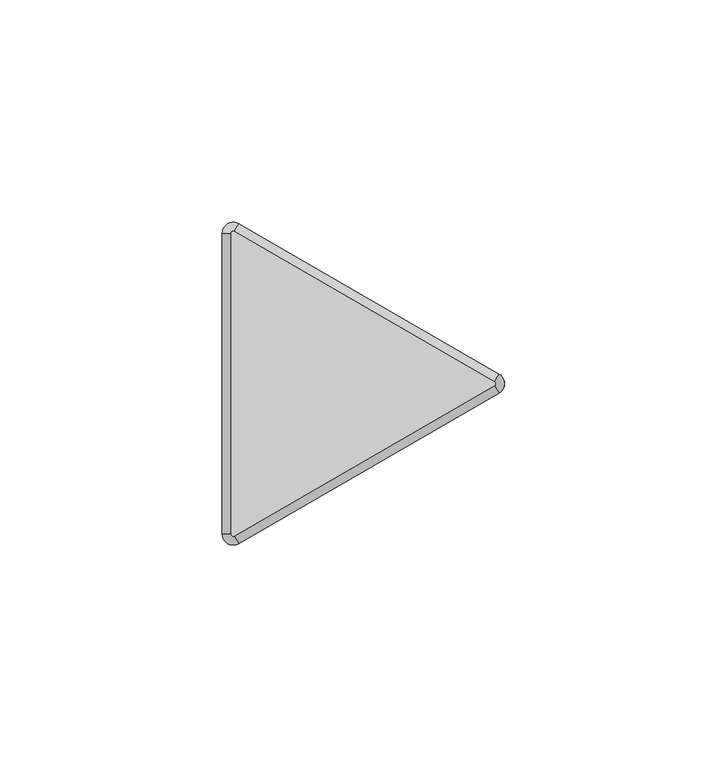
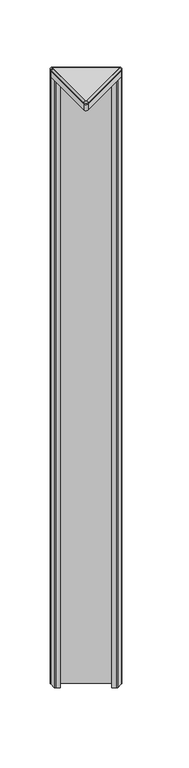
"""IFC4 building model written with IfcOpenShell, lengths in millimetres: furniture geometry, Steelcase - Answer Solution - Panel - 120deg Change-of-Height Trim - Thin : V Corner - 30H for 90H App."""

from ifc_helpers import new_model, si_unit, point, frame, frame_2d, origin, place, context, project, spatial, polyline, circle_curve, ellipse_curve, trimmed, segment, composite_curve, outline, extrude, source, transform, mapped, element, save
from ifc_brep_helpers import plane_surface, cylinder_surface, revolved_surface, advanced_brep


def furniture_1ed7986a(model_context):
    return source(origin(), model_context, "Body", "SolidModel", [
        advanced_brep(
        [(-10.518645, -37.3335529, 2138.0628978), (-14.2052101, -35.2051135, 2138.0628978), (-14.2052101, -35.2051135, 2137.1164663), (-10.518645, -37.3335529, 2137.1164663), (-11.46175, -35.7000471, 2139.95), (-12.319, -35.2051135, 2139.95), (-11.46175, -35.7000471, 2137.1164663), (-12.319, -35.2051135, 2137.1164663), (48.0429908, -3.5229767, 2137.1164663), (48.0429908, -3.5229767, 2138.0628978), (47.0998858, -1.8894709, 2139.95), (47.0998858, -1.8894709, 2137.1164663), (48.0429908, 0.733902, 2138.0628978), (48.0429908, 0.733902, 2137.1164663), (47.0998858, -0.8996038, 2139.95), (47.0998858, -0.8996038, 2137.1164663), (-10.518645, 34.5444782, 2137.1164663), (-14.2052101, 32.4160388, 2137.1164663), (-11.46175, 32.9109723, 2137.1164663), (-12.319, 32.4160388, 2137.1164663), (-10.518645, 34.5444782, 2138.0628978), (-11.46175, 32.9109723, 2139.95), (-14.2052101, 32.4160388, 2138.0628978), (-12.319, 32.4160388, 2139.95)],
        [
            (0, 1, circle_curve(frame((-11.7475, -35.2051135, 2138.0628978), z_axis=(0.0, 0.0, -1.0), x_axis=(-1.0, 0.0, 0.0)), 2.4577101)),
            (1, 2),
            (2, 3, circle_curve(frame((-11.7475, -35.2051135, 2137.1164663), z_axis=(0.0, 0.0, 1.0), x_axis=(-1.0, 0.0, 0.0)), 2.4577101)),
            (3, 0),
            (4, 5, circle_curve(frame((-11.7475, -35.2051135, 2139.95), z_axis=(0.0, 0.0, -1.0), x_axis=(-1.0, 0.0, 0.0)), 0.5715)),
            (5, 1, circle_curve(frame((-12.3181076, -35.2051135, 2138.0628978), z_axis=(0.0, -1.0, 0.0), x_axis=(1.0, 0.0, 0.0)), 1.8871024)),
            (0, 4, circle_curve(frame((-11.4621962, -35.6992743, 2138.0628978), z_axis=(-0.8660254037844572, -0.49999999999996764, 0.0), x_axis=(-0.49999999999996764, 0.8660254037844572, 0.0)), 1.8871024)),
            (6, 7, circle_curve(frame((-11.7475, -35.2051135, 2137.1164663), z_axis=(0.0, 0.0, -1.0), x_axis=(-1.0, 0.0, 0.0)), 0.5715)),
            (7, 5),
            (4, 6),
            (3, 8),
            (8, 9),
            (9, 0),
            (9, 10, circle_curve(frame((47.0994396, -1.8886981, 2138.0628978), z_axis=(-0.8660254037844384, -0.5000000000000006, 0.0), x_axis=(-0.5000000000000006, 0.8660254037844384, 0.0)), 1.8871024)),
            (10, 4),
            (10, 11),
            (11, 6),
            (12, 9, circle_curve(frame((46.8141358, -1.3945374, 2138.0628978), z_axis=(0.0, 0.0, -1.0), x_axis=(0.4999999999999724, -0.8660254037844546, 0.0)), 2.4577101)),
            (8, 13, circle_curve(frame((46.8141358, -1.3945374, 2137.1164663), z_axis=(0.0, 0.0, 1.0), x_axis=(0.4999999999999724, -0.8660254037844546, 0.0)), 2.4577101)),
            (13, 12),
            (14, 10, circle_curve(frame((46.8141358, -1.3945374, 2139.95), z_axis=(0.0, 0.0, -1.0), x_axis=(0.4999999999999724, -0.8660254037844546, 0.0)), 0.5715)),
            (12, 14, circle_curve(frame((47.0994396, -0.9003766, 2138.0628978), z_axis=(0.8660254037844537, -0.49999999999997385, 0.0), x_axis=(-0.49999999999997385, -0.8660254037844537, 0.0)), 1.8871024)),
            (15, 11, circle_curve(frame((46.8141358, -1.3945374, 2137.1164663), z_axis=(0.0, 0.0, -1.0), x_axis=(0.4999999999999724, -0.8660254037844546, 0.0)), 0.5715)),
            (14, 15),
            (16, 13),
            (2, 17),
            (17, 16, circle_curve(frame((-11.7475, 32.4160388, 2137.1164663), z_axis=(0.0, 0.0, -1.0), x_axis=(0.500000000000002, 0.8660254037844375, 0.0)), 2.4577101)),
            (15, 18),
            (18, 19, circle_curve(frame((-11.7475, 32.4160388, 2137.1164663), z_axis=(0.0, 0.0, 1.0), x_axis=(0.500000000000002, 0.8660254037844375, 0.0)), 0.5715)),
            (19, 7),
            (16, 20),
            (20, 12),
            (20, 21, circle_curve(frame((-11.4621962, 32.9101995, 2138.0628978), z_axis=(0.8660254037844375, -0.5000000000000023, 0.0), x_axis=(-0.5000000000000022, -0.8660254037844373, 0.0)), 1.8871024)),
            (21, 14),
            (21, 18),
            (22, 20, circle_curve(frame((-11.7475, 32.4160388, 2138.0628978), z_axis=(0.0, 0.0, -1.0), x_axis=(0.500000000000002, 0.8660254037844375, 0.0)), 2.4577101)),
            (17, 22),
            (23, 21, circle_curve(frame((-11.7475, 32.4160388, 2139.95), z_axis=(0.0, 0.0, -1.0), x_axis=(0.500000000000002, 0.8660254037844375, 0.0)), 0.5715)),
            (22, 23, circle_curve(frame((-12.3181076, 32.4160388, 2138.0628978), z_axis=(0.0, 1.0, 0.0), x_axis=(1.0, 0.0, 0.0)), 1.8871024)),
            (23, 19),
            (1, 22),
            (5, 23),
        ],
        [
            cylinder_surface(frame((-11.7475, -35.2051135, 0.0), z_axis=(0.0, 0.0, 1.0), x_axis=(-1.0, 0.0, 0.0)), 2.4577101),
            revolved_surface(trimmed(ellipse_curve(frame((-12.3181076, -35.2051135, 2138.0628978), z_axis=(0.0, 1.0, 0.0), x_axis=(1.0, 0.0, 0.0)), 1.8871024, 1.8871024), [point((-14.2052101, -35.2051135, 2138.0628978))], [point((-12.319, -35.2051135, 2139.95))], True, "CARTESIAN"), (-11.7475, -35.2051135, 0.0), (0.0, 0.0, 1.0)),
            revolved_surface(polyline([(-12.319, -35.2051135, 2139.95), (-12.319, -35.2051135, 2137.1164663)]), (-11.7475, -35.2051135, 0.0), (0.0, 0.0, 1.0)),
            plane_surface(frame((-10.518645, -37.3335529, 2137.1164663), z_axis=(0.49999999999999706, -0.8660254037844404, 0.0), x_axis=(0.8660254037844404, 0.49999999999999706, 0.0))),
            cylinder_surface(frame((-11.4621962, -35.6992743, 2138.0628978), z_axis=(-0.8660254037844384, -0.5000000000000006, 0.0), x_axis=(-0.5000000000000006, 0.8660254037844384, 0.0)), 1.8871024),
            plane_surface(frame((-11.46175, -35.7000471, 2139.95), z_axis=(-0.500000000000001, 0.8660254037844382, 0.0), x_axis=(0.8660254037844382, 0.500000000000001, 0.0))),
            cylinder_surface(frame((46.8141358, -1.3945374, 0.0), z_axis=(0.0, 0.0, 1.0), x_axis=(0.4999999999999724, -0.8660254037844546, 0.0)), 2.4577101),
            revolved_surface(trimmed(ellipse_curve(frame((47.0994396, -1.8886981, 2138.0628978), z_axis=(-0.8660254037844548, -0.499999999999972, 0.0), x_axis=(-0.499999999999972, 0.8660254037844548, 0.0)), 1.8871024, 1.8871024), [point((48.0429908, -3.5229767, 2138.0628978))], [point((47.0998858, -1.8894709, 2139.95))], True, "CARTESIAN"), (46.8141358, -1.3945374, 0.0), (0.0, 0.0, 1.0)),
            revolved_surface(polyline([(47.09988579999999, -1.8894709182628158, 2139.95), (47.09988579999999, -1.8894709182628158, 2137.1164663)]), (46.8141358, -1.3945374, 0.0), (0.0, 0.0, 1.0)),
            plane_surface(frame((47.0998858, -0.8996038, 2137.1164663), z_axis=(0.0, 0.0, -1.0), x_axis=(-0.8660254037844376, 0.5000000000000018, 0.0))),
            plane_surface(frame((48.0429908, 0.733902, 2137.1164663), z_axis=(0.49999999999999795, 0.8660254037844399, 0.0), x_axis=(-0.8660254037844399, 0.49999999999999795, 0.0))),
            cylinder_surface(frame((47.0994396, -0.9003766, 2138.0628978), z_axis=(0.8660254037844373, -0.5000000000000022, 0.0), x_axis=(-0.5000000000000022, -0.8660254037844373, 0.0)), 1.8871024),
            plane_surface(frame((47.0998858, -0.8996038, 2139.95), z_axis=(-0.5000000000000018, -0.8660254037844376, 0.0), x_axis=(-0.8660254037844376, 0.5000000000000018, 0.0))),
            cylinder_surface(frame((-11.7475, 32.4160388, 0.0), z_axis=(0.0, 0.0, 1.0), x_axis=(0.500000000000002, 0.8660254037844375, 0.0)), 2.4577101),
            revolved_surface(trimmed(ellipse_curve(frame((-11.4621962, 32.9101995, 2138.0628978), z_axis=(0.866025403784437, -0.5000000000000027, 0.0), x_axis=(-0.5000000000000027, -0.866025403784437, 0.0)), 1.8871024, 1.8871024), [point((-10.518645, 34.5444782, 2138.0628978))], [point((-11.46175, 32.9109723, 2139.95))], True, "CARTESIAN"), (-11.7475, 32.4160388, 0.0), (0.0, 0.0, 1.0)),
            revolved_surface(polyline([(-11.461749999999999, 32.91097231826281, 2139.95), (-11.461749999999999, 32.91097231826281, 2137.1164663)]), (-11.7475, 32.4160388, 0.0), (0.0, 0.0, 1.0)),
            plane_surface(frame((-14.2052101, 32.4160388, 2137.1164663), z_axis=(-1.0, 0.0, 0.0), x_axis=(0.0, -1.0, 0.0))),
            cylinder_surface(frame((-12.3181076, 32.4160388, 2138.0628978), z_axis=(0.0, 1.0, 0.0), x_axis=(1.0, 0.0, 0.0)), 1.8871024),
            plane_surface(frame((-12.319, 32.4160388, 2139.95), z_axis=(1.0, 0.0, 0.0), x_axis=(0.0, -1.0, 0.0))),
        ],
        [
            (0, [[1, 2, 3, 4]]),
            (1, [[5, 6, -1, 7]]),
            (2, [[8, 9, -5, 10]]),
            (3, [[-4, 11, 12, 13]]),
            (4, [[-7, -13, 14, 15]]),
            (5, [[-10, -15, 16, 17]]),
            (6, [[18, -12, 19, 20]]),
            (7, [[21, -14, -18, 22]]),
            (8, [[23, -16, -21, 24]]),
            (9, [[25, -19, -11, -3, 26, 27], [-8, -17, -23, 28, 29, 30]]),
            (10, [[-20, -25, 31, 32]]),
            (11, [[-22, -32, 33, 34]]),
            (12, [[-24, -34, 35, -28]]),
            (13, [[36, -31, -27, 37]]),
            (14, [[38, -33, -36, 39]]),
            (15, [[-29, -35, -38, 40]]),
            (16, [[-37, -26, -2, 41]]),
            (17, [[-39, -41, -6, 42]]),
            (18, [[-40, -42, -9, -30]]),
        ],
    ),
        extrude(outline(composite_curve([segment(trimmed(circle_curve(frame_2d((46.8261011, -1.3945374)), 0.5655173), [point((47.1088598, -0.904785))], [point((47.1088598, -1.8842897))], False, "CARTESIAN"), True, "CONTINUOUS"), segment(polyline([(47.1088598, -1.8842897), (-11.4505119, -35.6935587)]), True, "CONTINUOUS"), segment(trimmed(circle_curve(frame_2d((-11.7400079, -35.1921369)), 0.5789921), [point((-11.4505119, -35.6935587))], [point((-12.319, -35.1921369))], False, "CARTESIAN"), True, "CONTINUOUS"), segment(polyline([(-12.319, -35.1921369), (-12.319, 32.3985888)]), True, "CONTINUOUS"), segment(trimmed(circle_curve(frame_2d((-11.7374252, 32.3985888)), 0.5815748), [point((-12.319, 32.3985888))], [point((-11.4466378, 32.9022473))], False, "CARTESIAN"), True, "CONTINUOUS"), segment(polyline([(-11.4466378, 32.9022473), (47.1088598, -0.904785)]), True, "CONTINUOUS")], self_intersect=False)), frame((0.0, 0.0, 2137.1164663), z_axis=(0.0, 0.0, 1.0), x_axis=(1.0, 0.0, 0.0)), (0.0, 0.0, 1.0), 2.8335337),
        extrude(outline(composite_curve([segment(trimmed(circle_curve(frame_2d((47.9608454, -1.3945374)), 1.2935425), [point((48.6076166, -0.2742967))], [point((48.6076166, -2.514778))], False, "CARTESIAN"), True, "CONTINUOUS"), segment(polyline([(48.6076166, -2.514778), (41.722656, -6.4898119)]), True, "CONTINUOUS"), segment(trimmed(circle_curve(frame_2d((41.0991304, -5.4098338)), 1.2470513), [point((41.722656, -6.4898119))], [point((40.4756048, -6.4898119))], False, "CARTESIAN"), True, "CONTINUOUS"), segment(polyline([(40.4756048, -6.4898119), (36.3239304, -4.0928416), (36.7811304, -3.300948), (41.0991304, -5.7939464), (47.3502407, -2.1848662)]), True, "CONTINUOUS"), segment(trimmed(circle_curve(frame_2d((46.8939441, -1.3945374)), 0.9125932), [point((47.3502407, -2.1848662))], [point((47.3502407, -0.6042085))], True, "CARTESIAN"), True, "CONTINUOUS"), segment(polyline([(47.3502407, -0.6042085), (-11.3312768, 33.2755814)]), True, "CONTINUOUS"), segment(trimmed(circle_curve(frame_2d((-11.7875179, 32.4853487)), 0.9124821), [point((-11.3312768, 33.2755814))], [point((-12.7, 32.4853487))], True, "CARTESIAN"), True, "CONTINUOUS"), segment(polyline([(-12.7, 32.4853487), (-12.7, 25.266996), (-8.382, 22.7739975), (-8.8392, 21.9821039), (-12.9583282, 24.3602837)]), True, "CONTINUOUS"), segment(trimmed(circle_curve(frame_2d((-12.3022565, 25.4966333)), 1.3121435), [point((-12.9583282, 24.3602837))], [point((-13.6144, 25.4966333))], False, "CARTESIAN"), True, "CONTINUOUS"), segment(polyline([(-13.6144, 25.4966333), (-13.6144, 33.3957138)]), True, "CONTINUOUS"), segment(trimmed(circle_curve(frame_2d((-12.3131174, 33.3957138)), 1.3012826), [point((-13.6144, 33.3957138))], [point((-11.6624761, 34.5226576))], False, "CARTESIAN"), True, "CONTINUOUS"), segment(polyline([(-11.6624761, 34.5226576), (48.6076166, -0.2742967)]), True, "CONTINUOUS")], self_intersect=False)), frame((0.0, 0.0, 1377.95), z_axis=(0.0, 0.0, 1.0), x_axis=(1.0, 0.0, 0.0)), (0.0, 0.0, 1.0), 751.84),
        extrude(outline(composite_curve([segment(trimmed(circle_curve(frame_2d((46.8140443, -1.3945374)), 2.4577558), [point((48.0429222, 0.7339416))], [point((48.0429222, -3.5230163))], False, "CARTESIAN"), True, "CONTINUOUS"), segment(polyline([(48.0429222, -3.5230163), (-10.518058, -37.333214)]), True, "CONTINUOUS"), segment(trimmed(circle_curve(frame_2d((-11.7471087, -35.2044357)), 2.4581014), [point((-10.518058, -37.333214))], [point((-14.2052101, -35.2044357))], False, "CARTESIAN"), True, "CONTINUOUS"), segment(polyline([(-14.2052101, -35.2044357), (-14.2052101, 32.4160388)]), True, "CONTINUOUS"), segment(trimmed(circle_curve(frame_2d((-11.7475, 32.4160388)), 2.4577101), [point((-14.2052101, 32.4160388))], [point((-10.518645, 34.5444782))], False, "CARTESIAN"), True, "CONTINUOUS"), segment(polyline([(-10.518645, 34.5444782), (48.0429222, 0.7339416)]), True, "CONTINUOUS")], self_intersect=False)), frame((0.0, 0.0, 2129.79), z_axis=(0.0, 0.0, 1.0), x_axis=(1.0, 0.0, 0.0)), (0.0, 0.0, 1.0), 7.3264663),
    ])


if __name__ == "__main__":
    model = new_model("IFC4")
    model_context = context("Model", 3, world=origin())
    ifc_project = project(units=[si_unit("LENGTHUNIT", "METRE", prefix="MILLI")], contexts=[model_context])
    site = spatial("IfcSite", under=ifc_project)
    building = spatial("IfcBuilding", under=site)
    placement = place(None, origin())
    furniture_shape = furniture_1ed7986a(model_context)
    element("IfcFurniture", 1, ObjectType="Steelcase - Answer Solution - Panel - 120deg Change-of-Height Trim - Thin : V Corner - 30H for 90H App", at=placement, inside=building, context=model_context, shape_type="MappedRepresentation", body=[
        mapped(furniture_shape, transform((0.0, 0.0, 0.0), x_axis=(1.0, 0.0, 0.0), y_axis=(0.0, 1.0, 0.0), z_axis=(0.0, 0.0, 1.0))),
    ])
    save(model, "model.ifc")
